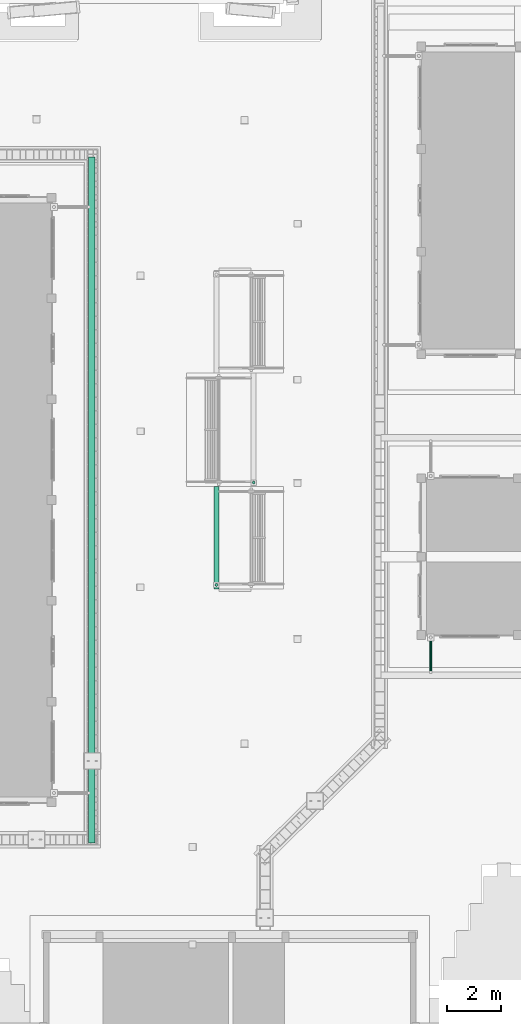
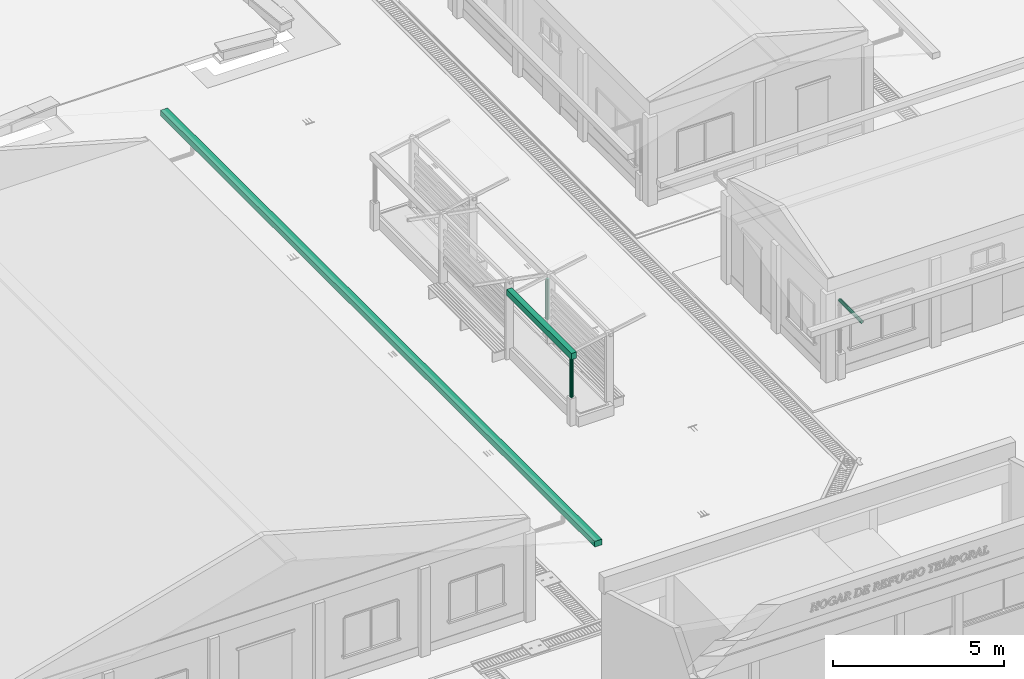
# One storey, part 91 of 151: 5 flow segments.
"""IFC2X3 building model written with IfcOpenShell, lengths in metres."""

from ifc_helpers import new_model, si_unit, origin, origin_with_axes, place, context, subcontext, project, spatial, faceted_brep, element, save


model = new_model("IFC2X3")

# Units and contexts
model_context = context("Model", 3, precision=1e-05, world=origin_with_axes())
body_context = subcontext(model_context, "Body", "Model", "MODEL_VIEW")
ifc_project = project(units=[si_unit("LENGTHUNIT", "METRE"), si_unit("AREAUNIT", "SQUARE_METRE"), si_unit("VOLUMEUNIT", "CUBIC_METRE"), si_unit("PLANEANGLEUNIT", "RADIAN")], contexts=[model_context])

# Site, building, storey
site_placement = place(None, origin_with_axes())
site = spatial("IfcSite", under=ifc_project, at=site_placement, Name="Predio Los Mangos - Morales, San Martín", CompositionType="ELEMENT")
building_placement = place(site_placement, origin())
building = spatial("IfcBuilding", under=site, at=building_placement, Name="Hogar de Refugio Temporal", CompositionType="ELEMENT")
storey_placement = place(building_placement, origin())
storey = spatial("IfcBuildingStorey", under=building, at=storey_placement, Name="NIVEL 1 (NPT +0.00)", CompositionType="ELEMENT", Elevation=0.0)

# Flow segments
flow_segment_1_placement = place(storey_placement, origin())
element("IfcFlowSegment", 1, at=flow_segment_1_placement, inside=storey, Name="E-01_canaleta", ObjectType="Canaleta", context=body_context, shape_type="Brep", body=[
    faceted_brep([(32.98, 24.8, 3.13), (32.98, 50.2, 3.13), (33.22, 50.2, 3.13), (33.22, 24.8, 3.13), (32.98, 24.8, 3.33), (33.22, 24.8, 3.33), (33.22, 50.2, 3.33), (32.98, 50.2, 3.33)], [[[0, 1, 2, 3]], [[4, 5, 6, 7]], [[0, 3, 5, 4]], [[3, 2, 6, 5]], [[2, 1, 7, 6]], [[1, 0, 4, 7]]]),
])
flow_segment_2_placement = place(storey_placement, origin())
element("IfcFlowSegment", 2, at=flow_segment_2_placement, inside=storey, Name="montante_desvio", ObjectType="Montante PVC 4\"", context=body_context, shape_type="Brep", body=[
    faceted_brep([(45.65, 31.12, 2.965), (45.65, 32.41, 2.965), (45.6225, 32.41, 2.9576), (45.6225, 31.12, 2.9576), (45.6024, 32.41, 2.9375), (45.6024, 31.12, 2.9375), (45.595, 32.41, 2.91), (45.595, 31.12, 2.91), (45.6024, 32.41, 2.8825), (45.6024, 31.12, 2.8825), (45.6225, 32.41, 2.8624), (45.6225, 31.12, 2.8624), (45.65, 32.41, 2.855), (45.65, 31.12, 2.855), (45.6775, 32.41, 2.8624), (45.6775, 31.12, 2.8624), (45.6976, 32.41, 2.8825), (45.6976, 31.12, 2.8825), (45.705, 32.41, 2.91), (45.705, 31.12, 2.91), (45.6976, 32.41, 2.9375), (45.6976, 31.12, 2.9375), (45.6775, 32.41, 2.9576), (45.6775, 31.12, 2.9576)], [[[0, 1, 2, 3]], [[3, 2, 4, 5]], [[5, 4, 6, 7]], [[7, 6, 8, 9]], [[9, 8, 10, 11]], [[11, 10, 12, 13]], [[13, 12, 14, 15]], [[15, 14, 16, 17]], [[17, 16, 18, 19]], [[19, 18, 20, 21]], [[2, 1, 22, 20, 18, 16, 14, 12, 10, 8, 6, 4]], [[21, 20, 22, 23]], [[23, 22, 1, 0]], [[0, 3, 5, 7, 9, 11, 13, 15, 17, 19, 21, 23]]]),
])
flow_segment_3_placement = place(storey_placement, origin())
element("IfcFlowSegment", 3, at=flow_segment_3_placement, inside=storey, Name="oc01_canaleta", ObjectType="Canaleta", context=body_context, shape_type="Brep", body=[
    faceted_brep([(37.8, 34.205, 2.49), (37.62, 34.205, 2.49), (37.62, 37.995, 2.49), (37.8, 37.995, 2.49), (37.8, 34.205, 2.71), (37.8, 37.995, 2.71), (37.62, 37.995, 2.71), (37.62, 34.205, 2.71)], [[[0, 1, 2, 3]], [[4, 5, 6, 7]], [[0, 3, 5, 4]], [[3, 2, 6, 5]], [[2, 1, 7, 6]], [[1, 0, 4, 7]]]),
])
flow_segment_4_placement = place(storey_placement, origin())
element("IfcFlowSegment", 4, at=flow_segment_4_placement, inside=storey, Name="oc01_bajada", ObjectType="Montante PVC 4\"", context=body_context, shape_type="Brep", body=[
    faceted_brep([(37.71, 34.41, 2.49), (37.71, 34.41, 1.05), (37.6825, 34.4026, 1.05), (37.6825, 34.4026, 2.49), (37.6624, 34.3825, 1.05), (37.6624, 34.3825, 2.49), (37.655, 34.355, 1.05), (37.655, 34.355, 2.49), (37.6624, 34.3275, 1.05), (37.6624, 34.3275, 2.49), (37.6825, 34.3074, 1.05), (37.6825, 34.3074, 2.49), (37.71, 34.3, 1.05), (37.71, 34.3, 2.49), (37.7375, 34.3074, 1.05), (37.7375, 34.3074, 2.49), (37.7576, 34.3275, 1.05), (37.7576, 34.3275, 2.49), (37.765, 34.355, 1.05), (37.765, 34.355, 2.49), (37.7576, 34.3825, 1.05), (37.7576, 34.3825, 2.49), (37.7375, 34.4026, 1.05), (37.7375, 34.4026, 2.49)], [[[0, 1, 2, 3]], [[3, 2, 4, 5]], [[5, 4, 6, 7]], [[7, 6, 8, 9]], [[9, 8, 10, 11]], [[11, 10, 12, 13]], [[13, 12, 14, 15]], [[15, 14, 16, 17]], [[17, 16, 18, 19]], [[19, 18, 20, 21]], [[2, 1, 22, 20, 18, 16, 14, 12, 10, 8, 6, 4]], [[21, 20, 22, 23]], [[23, 22, 1, 0]], [[0, 3, 5, 7, 9, 11, 13, 15, 17, 19, 21, 23]]]),
])
flow_segment_5_placement = place(storey_placement, origin())
element("IfcFlowSegment", 5, at=flow_segment_5_placement, inside=storey, Name="oc01_bajada", ObjectType="Montante PVC 4\"", context=body_context, shape_type="Brep", body=[
    faceted_brep([(39.09, 38.2, 2.49), (39.09, 38.2, 1.05), (39.0625, 38.1926, 1.05), (39.0625, 38.1926, 2.49), (39.0424, 38.1725, 1.05), (39.0424, 38.1725, 2.49), (39.035, 38.145, 1.05), (39.035, 38.145, 2.49), (39.0424, 38.1175, 1.05), (39.0424, 38.1175, 2.49), (39.0625, 38.0974, 1.05), (39.0625, 38.0974, 2.49), (39.09, 38.09, 1.05), (39.09, 38.09, 2.49), (39.1175, 38.0974, 1.05), (39.1175, 38.0974, 2.49), (39.1376, 38.1175, 1.05), (39.1376, 38.1175, 2.49), (39.145, 38.145, 1.05), (39.145, 38.145, 2.49), (39.1376, 38.1725, 1.05), (39.1376, 38.1725, 2.49), (39.1175, 38.1926, 1.05), (39.1175, 38.1926, 2.49)], [[[0, 1, 2, 3]], [[3, 2, 4, 5]], [[5, 4, 6, 7]], [[7, 6, 8, 9]], [[9, 8, 10, 11]], [[11, 10, 12, 13]], [[13, 12, 14, 15]], [[15, 14, 16, 17]], [[17, 16, 18, 19]], [[19, 18, 20, 21]], [[2, 1, 22, 20, 18, 16, 14, 12, 10, 8, 6, 4]], [[21, 20, 22, 23]], [[23, 22, 1, 0]], [[0, 3, 5, 7, 9, 11, 13, 15, 17, 19, 21, 23]]]),
])

save(model, "model.ifc")
